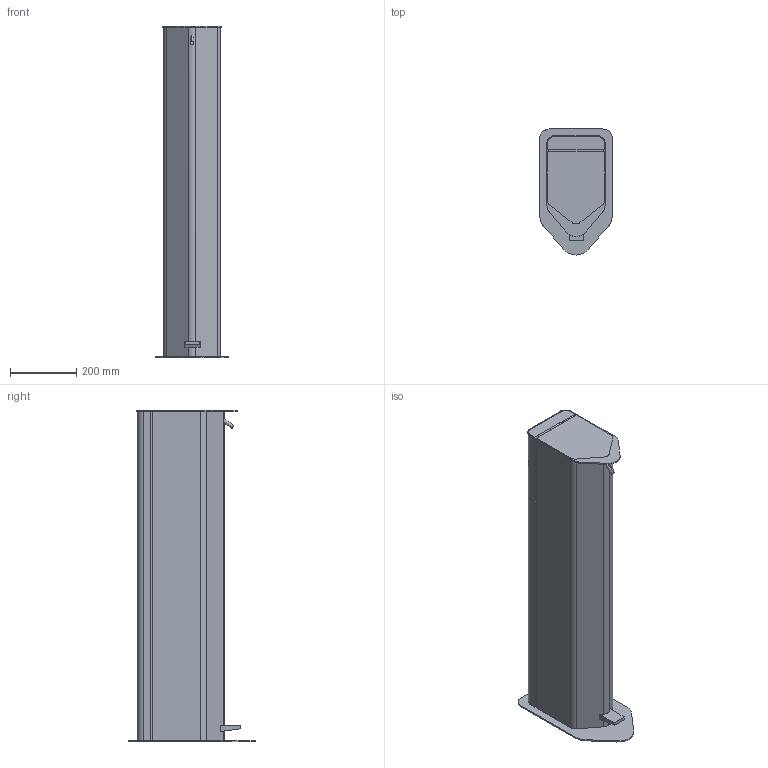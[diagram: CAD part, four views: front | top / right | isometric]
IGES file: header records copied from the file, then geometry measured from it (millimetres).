
Global section: file name: Z:\CLEEEN\10 3D\DISTRIBUTEUR IGS.igs; native system: Rhinoceros ( May 23 2013 ); preprocessor: Trout Lake IGES 012 May 23 2013; date: 200602.140359; units: millimetre
Bounding box: 220 x 380 x 1000 mm (x, y, z)
Surface area: 1108135.5 mm2 (no closed solid volume)
Topology: 0 solids, 0 shells, 57 faces, 328 edges, 326 vertices
Faces by surface type: bspline 57
